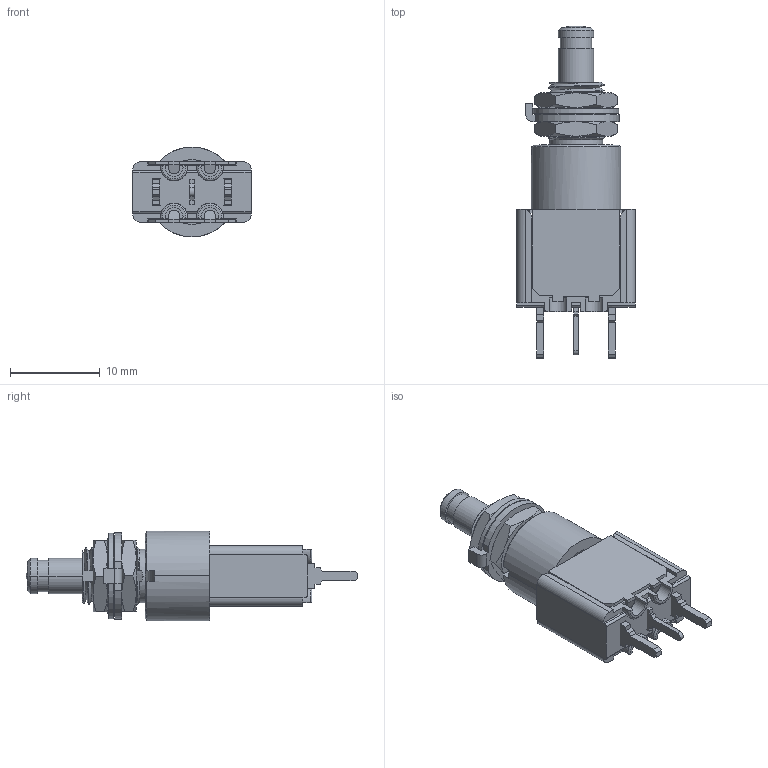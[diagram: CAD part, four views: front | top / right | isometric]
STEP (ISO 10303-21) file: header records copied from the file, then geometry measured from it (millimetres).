
FILE_DESCRIPTION((''),'2;1');
FILE_NAME('8436','2014-12-22T',('brevel'),(''),'PRO/ENGINEER BY PARAMETRIC TECHNOLOGY CORPORATION, 2013410','PRO/ENGINEER BY PARAMETRIC TECHNOLOGY CORPORATION, 2013410','');
FILE_SCHEMA(('CONFIG_CONTROL_DESIGN'));
Length unit declared in the file: millimetre
Products named in the file (1): 8436
Bounding box: 13.2 x 37.01 x 10 mm (x, y, z)
Surface area: 2683.8 mm2 (no closed solid volume)
Topology: 0 solids, 13 shells, 489 faces, 1746 edges, 1221 vertices
Faces by surface type: plane 314, cylinder 95, cone 54, sphere 10, torus 8, bspline 8
Entity records: 20129 total; most frequent: CARTESIAN_POINT 5725, ORIENTED_EDGE 3035, DIRECTION 2747, EDGE_CURVE 1736, VERTEX_POINT 1221, VECTOR 1107, LINE 1107, AXIS2_PLACEMENT_3D 820
